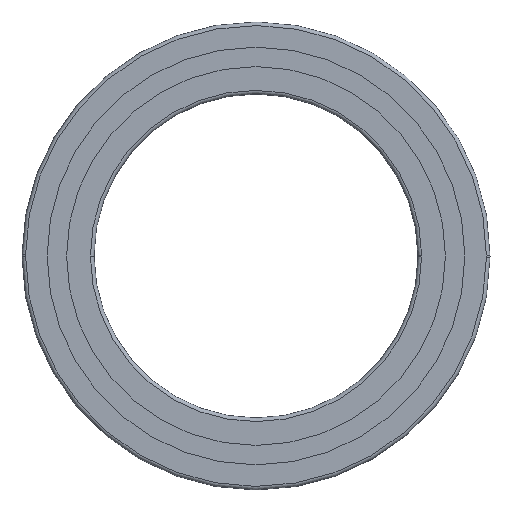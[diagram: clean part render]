
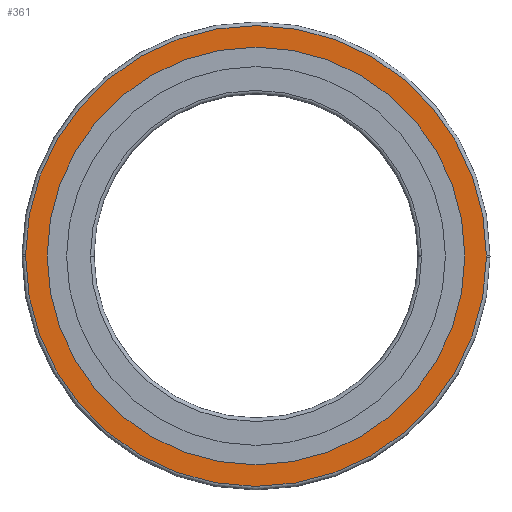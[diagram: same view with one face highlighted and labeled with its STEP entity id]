
A CAD part, front view. The second image highlights one B-rep face of the part: STEP entity #361.
In plain terms, the highlighted planar face has unit normal (0, -1, 0).
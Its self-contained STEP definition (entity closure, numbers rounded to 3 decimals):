
#325=EDGE_CURVE('',#405,#759,#865,.T.);
#361=ADVANCED_FACE('',(#905,#906),#907,.F.);
#405=VERTEX_POINT('',#955);
#425=EDGE_CURVE('',#471,#699,#975,.T.);
#427=VERTEX_POINT('',#977);
#457=EDGE_CURVE('',#427,#493,#1013,.T.);
#471=VERTEX_POINT('',#1030);
#493=VERTEX_POINT('',#1055);
#525=EDGE_CURVE('',#493,#405,#1091,.T.);
#667=EDGE_CURVE('',#699,#471,#1253,.T.);
#699=VERTEX_POINT('',#1288);
#703=EDGE_CURVE('',#759,#427,#1292,.T.);
#759=VERTEX_POINT('',#1354);
#865=CIRCLE('',#1468,64.0);
#905=FACE_OUTER_BOUND('',#1514,.T.);
#906=FACE_BOUND('',#1515,.T.);
#907=PLANE('',#1516);
#955=CARTESIAN_POINT('',(64.0,0.0,0.0));
#975=CIRCLE('',#1598,58.0);
#977=CARTESIAN_POINT('',(-64.0,0.0,0.0));
#1013=CIRCLE('',#1645,64.0);
#1030=CARTESIAN_POINT('',(58.0,0.0,0.0));
#1055=CARTESIAN_POINT('',(63.999,0.0,-0.396));
#1091=CIRCLE('',#1734,64.0);
#1253=CIRCLE('',#1936,58.0);
#1288=CARTESIAN_POINT('',(-58.0,0.0,0.0));
#1292=CIRCLE('',#1985,64.0);
#1354=CARTESIAN_POINT('',(-63.999,0.0,0.396));
#1468=AXIS2_PLACEMENT_3D('',#2186,#2187,#2188);
#1514=EDGE_LOOP('',(#2243,#2244,#2245,#2246));
#1515=EDGE_LOOP('',(#2247,#2248));
#1516=AXIS2_PLACEMENT_3D('',#2249,#2250,#2251);
#1598=AXIS2_PLACEMENT_3D('',#2326,#2327,#2328);
#1645=AXIS2_PLACEMENT_3D('',#2395,#2396,#2397);
#1734=AXIS2_PLACEMENT_3D('',#2494,#2495,#2496);
#1936=AXIS2_PLACEMENT_3D('',#2722,#2723,#2724);
#1985=AXIS2_PLACEMENT_3D('',#2763,#2764,#2765);
#2186=CARTESIAN_POINT('',(0.0,0.0,0.0));
#2187=DIRECTION('',(0.0,-1.0,0.0));
#2188=DIRECTION('',(1.0,0.0,0.0));
#2243=ORIENTED_EDGE('',*,*,#325,.T.);
#2244=ORIENTED_EDGE('',*,*,#703,.T.);
#2245=ORIENTED_EDGE('',*,*,#457,.T.);
#2246=ORIENTED_EDGE('',*,*,#525,.T.);
#2247=ORIENTED_EDGE('',*,*,#667,.F.);
#2248=ORIENTED_EDGE('',*,*,#425,.F.);
#2249=CARTESIAN_POINT('',(0.0,0.0,0.0));
#2250=DIRECTION('',(0.0,1.0,0.0));
#2251=DIRECTION('',(1.0,0.0,-0.0));
#2326=CARTESIAN_POINT('',(0.0,0.0,0.0));
#2327=DIRECTION('',(0.0,-1.0,0.0));
#2328=DIRECTION('',(1.0,0.0,0.0));
#2395=CARTESIAN_POINT('',(0.0,0.0,0.0));
#2396=DIRECTION('',(0.0,-1.0,0.0));
#2397=DIRECTION('',(-1.0,0.0,0.0));
#2494=CARTESIAN_POINT('',(0.0,0.0,0.0));
#2495=DIRECTION('',(0.0,-1.0,0.0));
#2496=DIRECTION('',(-1.0,0.0,0.0));
#2722=CARTESIAN_POINT('',(0.0,0.0,0.0));
#2723=DIRECTION('',(0.0,-1.0,0.0));
#2724=DIRECTION('',(-1.0,0.0,0.0));
#2763=CARTESIAN_POINT('',(0.0,0.0,0.0));
#2764=DIRECTION('',(0.0,-1.0,0.0));
#2765=DIRECTION('',(1.0,0.0,0.0));
